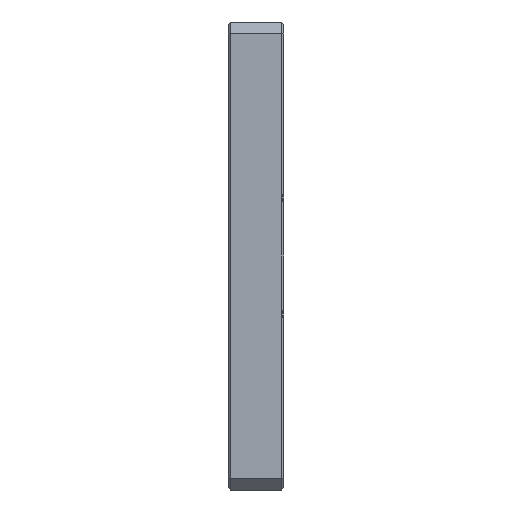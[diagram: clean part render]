
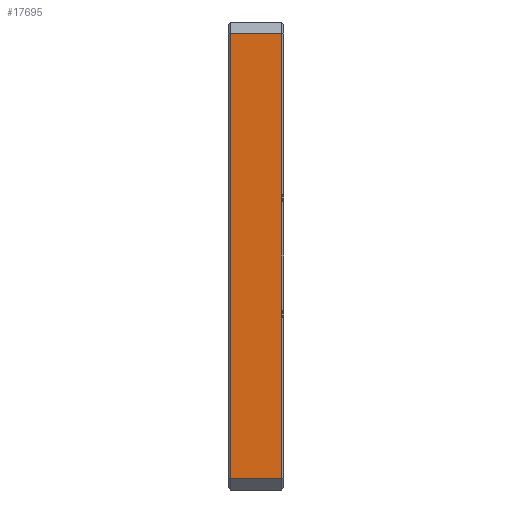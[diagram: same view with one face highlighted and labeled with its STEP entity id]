
A CAD part, left-side view. The second image highlights one B-rep face of the part: STEP entity #17695.
In plain terms, the highlighted planar face has unit normal (-1, 0, 0).
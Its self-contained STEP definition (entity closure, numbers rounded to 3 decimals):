
#3980=DIRECTION('',(0.,1.,0.));
#3981=VECTOR('',#3980,0.2);
#3982=CARTESIAN_POINT('',(-54.,1.,24.25));
#3983=LINE('',#3982,#3981);
#3984=DIRECTION('',(0.,0.,1.));
#3985=VECTOR('',#3984,72.25);
#3986=CARTESIAN_POINT('',(-54.,1.,-48.));
#3987=LINE('',#3986,#3985);
#3988=DIRECTION('',(0.,1.,0.));
#3989=VECTOR('',#3988,23.);
#3990=CARTESIAN_POINT('',(-54.,1.,-48.));
#3991=LINE('',#3990,#3989);
#3992=DIRECTION('',(0.,0.,1.));
#3993=VECTOR('',#3992,200.);
#3994=CARTESIAN_POINT('',(-54.,24.,-48.));
#3995=LINE('',#3994,#3993);
#3996=DIRECTION('',(0.,-1.,0.));
#3997=VECTOR('',#3996,23.);
#3998=CARTESIAN_POINT('',(-54.,24.,152.));
#3999=LINE('',#3998,#3997);
#4000=DIRECTION('',(0.,0.,1.));
#4001=VECTOR('',#4000,72.25);
#4002=CARTESIAN_POINT('',(-54.,1.,79.75));
#4003=LINE('',#4002,#4001);
#4004=DIRECTION('',(0.,1.,0.));
#4005=VECTOR('',#4004,0.2);
#4006=CARTESIAN_POINT('',(-54.,1.,79.75));
#4007=LINE('',#4006,#4005);
#4008=DIRECTION('',(0.,0.,1.));
#4009=VECTOR('',#4008,3.5);
#4010=CARTESIAN_POINT('',(-54.,1.2,76.25));
#4011=LINE('',#4010,#4009);
#4012=DIRECTION('',(0.,1.,0.));
#4013=VECTOR('',#4012,0.2);
#4014=CARTESIAN_POINT('',(-54.,1.,76.25));
#4015=LINE('',#4014,#4013);
#4016=DIRECTION('',(0.,0.,1.));
#4017=VECTOR('',#4016,48.5);
#4018=CARTESIAN_POINT('',(-54.,1.,27.75));
#4019=LINE('',#4018,#4017);
#4020=DIRECTION('',(0.,1.,0.));
#4021=VECTOR('',#4020,0.2);
#4022=CARTESIAN_POINT('',(-54.,1.,27.75));
#4023=LINE('',#4022,#4021);
#4024=DIRECTION('',(0.,0.,1.));
#4025=VECTOR('',#4024,3.5);
#4026=CARTESIAN_POINT('',(-54.,1.2,24.25));
#4027=LINE('',#4026,#4025);
#10539=CARTESIAN_POINT('',(-54.,24.,152.));
#10540=VERTEX_POINT('',#10539);
#10543=CARTESIAN_POINT('',(-54.,24.,-48.));
#10544=VERTEX_POINT('',#10543);
#10557=CARTESIAN_POINT('',(-54.,1.,152.));
#10558=VERTEX_POINT('',#10557);
#10565=CARTESIAN_POINT('',(-54.,1.,-48.));
#10566=VERTEX_POINT('',#10565);
#10631=CARTESIAN_POINT('',(-54.,1.,24.25));
#10632=CARTESIAN_POINT('',(-54.,1.2,24.25));
#10633=VERTEX_POINT('',#10631);
#10634=VERTEX_POINT('',#10632);
#10635=CARTESIAN_POINT('',(-54.,1.,27.75));
#10636=CARTESIAN_POINT('',(-54.,1.2,27.75));
#10637=VERTEX_POINT('',#10635);
#10638=VERTEX_POINT('',#10636);
#10639=CARTESIAN_POINT('',(-54.,1.,76.25));
#10640=CARTESIAN_POINT('',(-54.,1.2,76.25));
#10641=VERTEX_POINT('',#10639);
#10642=VERTEX_POINT('',#10640);
#10643=CARTESIAN_POINT('',(-54.,1.,79.75));
#10644=CARTESIAN_POINT('',(-54.,1.2,79.75));
#10645=VERTEX_POINT('',#10643);
#10646=VERTEX_POINT('',#10644);
#17670=CARTESIAN_POINT('',(-54.,25.,-54.));
#17671=DIRECTION('',(-1.,0.,0.));
#17672=DIRECTION('',(0.,0.,1.));
#17673=AXIS2_PLACEMENT_3D('',#17670,#17671,#17672);
#17674=PLANE('',#17673);
#17675=ORIENTED_EDGE('',*,*,#17543,.F.);
#17676=ORIENTED_EDGE('',*,*,#17592,.F.);
#17678=ORIENTED_EDGE('',*,*,#17677,.T.);
#17680=ORIENTED_EDGE('',*,*,#17679,.T.);
#17682=ORIENTED_EDGE('',*,*,#17681,.T.);
#17683=ORIENTED_EDGE('',*,*,#17561,.F.);
#17684=ORIENTED_EDGE('',*,*,#17609,.T.);
#17686=ORIENTED_EDGE('',*,*,#17685,.F.);
#17687=ORIENTED_EDGE('',*,*,#17661,.F.);
#17688=ORIENTED_EDGE('',*,*,#17575,.F.);
#17690=ORIENTED_EDGE('',*,*,#17689,.T.);
#17692=ORIENTED_EDGE('',*,*,#17691,.F.);
#17693=EDGE_LOOP('',(#17675,#17676,#17678,#17680,#17682,#17683,#17684,#17686,
#17687,#17688,#17690,#17692));
#17694=FACE_OUTER_BOUND('',#17693,.F.);
#17695=ADVANCED_FACE('',(#17694),#17674,.T.);
#17543=EDGE_CURVE('',#10633,#10634,#3983,.T.);
#17561=EDGE_CURVE('',#10645,#10558,#4003,.T.);
#17575=EDGE_CURVE('',#10637,#10641,#4019,.T.);
#17592=EDGE_CURVE('',#10566,#10633,#3987,.T.);
#17609=EDGE_CURVE('',#10645,#10646,#4007,.T.);
#17661=EDGE_CURVE('',#10641,#10642,#4015,.T.);
#17677=EDGE_CURVE('',#10566,#10544,#3991,.T.);
#17679=EDGE_CURVE('',#10544,#10540,#3995,.T.);
#17681=EDGE_CURVE('',#10540,#10558,#3999,.T.);
#17685=EDGE_CURVE('',#10642,#10646,#4011,.T.);
#17689=EDGE_CURVE('',#10637,#10638,#4023,.T.);
#17691=EDGE_CURVE('',#10634,#10638,#4027,.T.);
